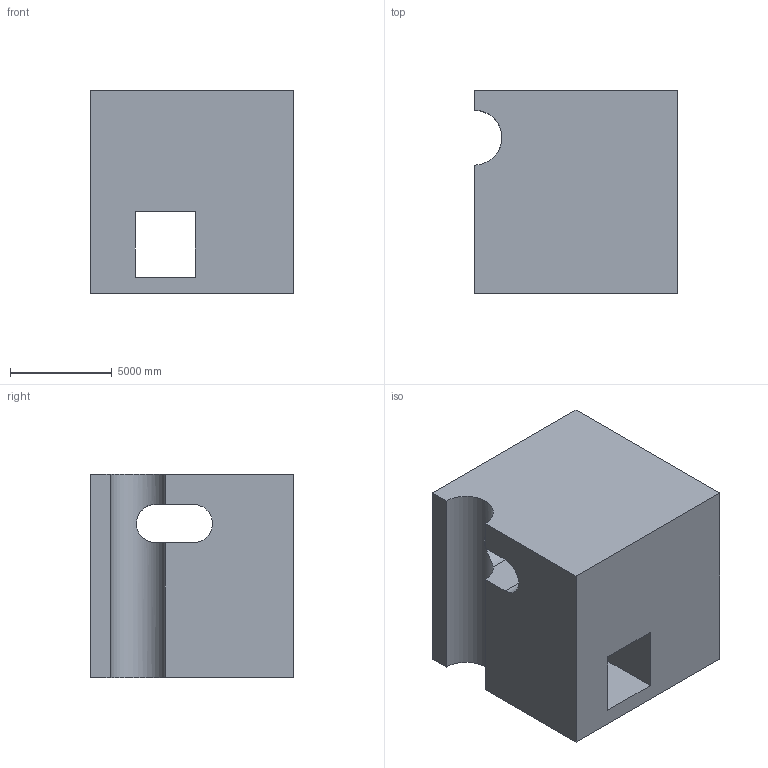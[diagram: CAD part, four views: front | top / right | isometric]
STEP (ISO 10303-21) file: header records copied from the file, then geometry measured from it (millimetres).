
FILE_DESCRIPTION (( 'STEP AP203' ), '1' );
FILE_NAME ('1204.STEP', '2022-08-18T13:10:31', ( 'user' ), ( '' ), 'SwSTEP 2.0', 'SolidWorks 2021', '' );
FILE_SCHEMA (( 'CONFIG_CONTROL_DESIGN' ));
Length unit declared in the file: centimetre
Products named in the file (1): 1204
Bounding box: 10000 x 10000 x 10000 mm (x, y, z)
Volume: 815353221082.5 mm3; surface area: 792033624.9 mm2
Topology: 1 solids, 1 shells, 16 faces, 45 edges, 30 vertices
Faces by surface type: plane 13, cylinder 3
Entity records: 726 total; most frequent: CARTESIAN_POINT 219, ORIENTED_EDGE 90, DIRECTION 85, EDGE_CURVE 45, LINE 37, VECTOR 37, VERTEX_POINT 30, AXIS2_PLACEMENT_3D 24
